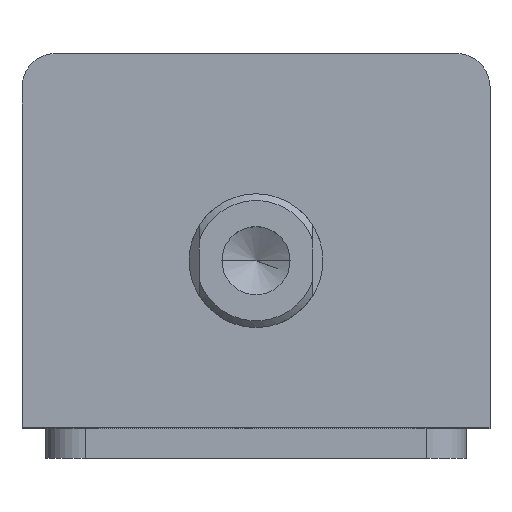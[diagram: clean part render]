
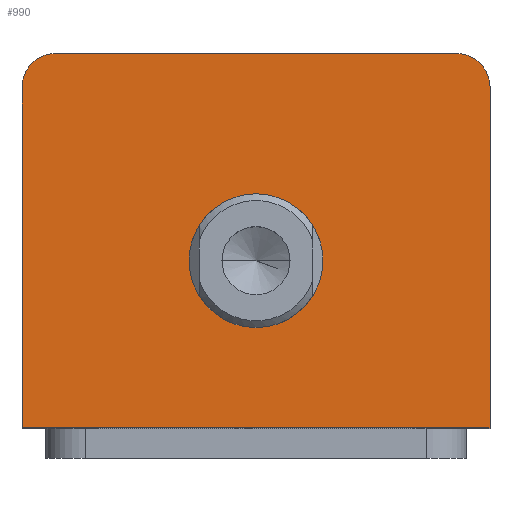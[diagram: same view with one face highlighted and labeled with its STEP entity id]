
A CAD part, top view. The second image highlights one B-rep face of the part: STEP entity #990.
In plain terms, the highlighted planar face has unit normal (0, 0, 1).
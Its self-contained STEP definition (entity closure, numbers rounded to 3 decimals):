
#348 = EDGE_CURVE ( 'NONE', #2550, #2815, #2887, .T. ) ;
#386 = EDGE_CURVE ( 'NONE', #2562, #2810, #2948, .T. ) ;
#391 = EDGE_CURVE ( 'NONE', #2559, #2874, #2956, .T. ) ;
#398 = EDGE_CURVE ( 'NONE', #2874, #2805, #2964, .T. ) ;
#488 = EDGE_CURVE ( 'NONE', #2815, #2550, #1824, .T. ) ;
#511 = EDGE_CURVE ( 'NONE', #2877, #2559, #1859, .T. ) ;
#529 = EDGE_CURVE ( 'NONE', #2805, #2562, #1855, .T. ) ;
#553 = CARTESIAN_POINT ( 'NONE',  ( -35., 28., 64. ) ) ;
#586 = DIRECTION ( 'NONE',  ( 0., -1., 0. ) ) ;
#654 = CARTESIAN_POINT ( 'NONE',  ( 10., -3., 64. ) ) ;
#703 = CARTESIAN_POINT ( 'NONE',  ( 0., 0., 64. ) ) ;
#709 = PLANE ( 'NONE',  #1682 ) ;
#713 = DIRECTION ( 'NONE',  ( 0., 0., 1. ) ) ;
#714 = DIRECTION ( 'NONE',  ( 1., 0., 0. ) ) ;
#769 = CARTESIAN_POINT ( 'NONE',  ( -30., 28., 64. ) ) ;
#782 = CARTESIAN_POINT ( 'NONE',  ( 35., -28., 64. ) ) ;
#911 = EDGE_LOOP ( 'NONE', ( #2367, #2380 ) ) ;
#923 = EDGE_LOOP ( 'NONE', ( #2379, #2366, #2368, #2369, #2370, #2371 ) ) ;
#990 = ADVANCED_FACE ( 'NONE', ( #1983, #1986 ), #709, .T. ) ;
#1114 = DIRECTION ( 'NONE',  ( 1., 0., 0. ) ) ;
#1115 = DIRECTION ( 'NONE',  ( 0., 0., 1. ) ) ;
#1116 = CARTESIAN_POINT ( 'NONE',  ( 30., 23., 64. ) ) ;
#1136 = DIRECTION ( 'NONE',  ( 0., 1., 0. ) ) ;
#1137 = CARTESIAN_POINT ( 'NONE',  ( 35., 28., 64. ) ) ;
#1146 = DIRECTION ( 'NONE',  ( 1., 0., 0. ) ) ;
#1147 = DIRECTION ( 'NONE',  ( 0., 0., 1. ) ) ;
#1148 = CARTESIAN_POINT ( 'NONE',  ( -30., 23., 64. ) ) ;
#1230 = DIRECTION ( 'NONE',  ( 1., 0., 0. ) ) ;
#1231 = DIRECTION ( 'NONE',  ( 0., 0., 1. ) ) ;
#1232 = CARTESIAN_POINT ( 'NONE',  ( 0., -3., 64. ) ) ;
#1371 = DIRECTION ( 'NONE',  ( -1., 0., 0. ) ) ;
#1384 = CARTESIAN_POINT ( 'NONE',  ( -35., 28., 64. ) ) ;
#1434 = DIRECTION ( 'NONE',  ( 1., 0., 0. ) ) ;
#1435 = CARTESIAN_POINT ( 'NONE',  ( -35., -28., 64. ) ) ;
#1520 = DIRECTION ( 'NONE',  ( 1., 0., 0. ) ) ;
#1521 = DIRECTION ( 'NONE',  ( 0., 0., 1. ) ) ;
#1522 = CARTESIAN_POINT ( 'NONE',  ( 0., -3., 64. ) ) ;
#1628 = AXIS2_PLACEMENT_3D ( 'NONE', #1232, #1231, #1230 ) ;
#1632 = EDGE_CURVE ( 'NONE', #2810, #2877, #2077, .T. ) ;
#1682 = AXIS2_PLACEMENT_3D ( 'NONE', #703, #713, #714 ) ;
#1696 = AXIS2_PLACEMENT_3D ( 'NONE', #1148, #1147, #1146 ) ;
#1753 = AXIS2_PLACEMENT_3D ( 'NONE', #1522, #1521, #1520 ) ;
#1794 = AXIS2_PLACEMENT_3D ( 'NONE', #1116, #1115, #1114 ) ;
#1824 = CIRCLE ( 'NONE', #1753, 10. ) ;
#1855 = LINE ( 'NONE', #1384, #1893 ) ;
#1859 = LINE ( 'NONE', #1435, #1862 ) ;
#1862 = VECTOR ( 'NONE', #1434, 1000. ) ;
#1893 = VECTOR ( 'NONE', #1371, 1000. ) ;
#1983 = FACE_BOUND ( 'NONE', #911, .T. ) ;
#1986 = FACE_OUTER_BOUND ( 'NONE', #923, .T. ) ;
#2071 = VECTOR ( 'NONE', #586, 1000. ) ;
#2077 = LINE ( 'NONE', #553, #2071 ) ;
#2366 = ORIENTED_EDGE ( 'NONE', *, *, #398, .T. ) ;
#2367 = ORIENTED_EDGE ( 'NONE', *, *, #348, .F. ) ;
#2368 = ORIENTED_EDGE ( 'NONE', *, *, #529, .T. ) ;
#2369 = ORIENTED_EDGE ( 'NONE', *, *, #386, .T. ) ;
#2370 = ORIENTED_EDGE ( 'NONE', *, *, #1632, .T. ) ;
#2371 = ORIENTED_EDGE ( 'NONE', *, *, #511, .T. ) ;
#2379 = ORIENTED_EDGE ( 'NONE', *, *, #391, .T. ) ;
#2380 = ORIENTED_EDGE ( 'NONE', *, *, #488, .F. ) ;
#2550 = VERTEX_POINT ( 'NONE', #654 ) ;
#2559 = VERTEX_POINT ( 'NONE', #782 ) ;
#2562 = VERTEX_POINT ( 'NONE', #769 ) ;
#2579 = CARTESIAN_POINT ( 'NONE',  ( -35., -28., 64. ) ) ;
#2582 = CARTESIAN_POINT ( 'NONE',  ( 35., 23., 64. ) ) ;
#2729 = CARTESIAN_POINT ( 'NONE',  ( -10., -3., 64. ) ) ;
#2748 = CARTESIAN_POINT ( 'NONE',  ( -35., 23., 64. ) ) ;
#2773 = CARTESIAN_POINT ( 'NONE',  ( 30., 28., 64. ) ) ;
#2805 = VERTEX_POINT ( 'NONE', #2773 ) ;
#2810 = VERTEX_POINT ( 'NONE', #2748 ) ;
#2815 = VERTEX_POINT ( 'NONE', #2729 ) ;
#2874 = VERTEX_POINT ( 'NONE', #2582 ) ;
#2877 = VERTEX_POINT ( 'NONE', #2579 ) ;
#2887 = CIRCLE ( 'NONE', #1628, 10. ) ;
#2948 = CIRCLE ( 'NONE', #1696, 5. ) ;
#2956 = LINE ( 'NONE', #1137, #2959 ) ;
#2959 = VECTOR ( 'NONE', #1136, 1000. ) ;
#2964 = CIRCLE ( 'NONE', #1794, 5. ) ;
